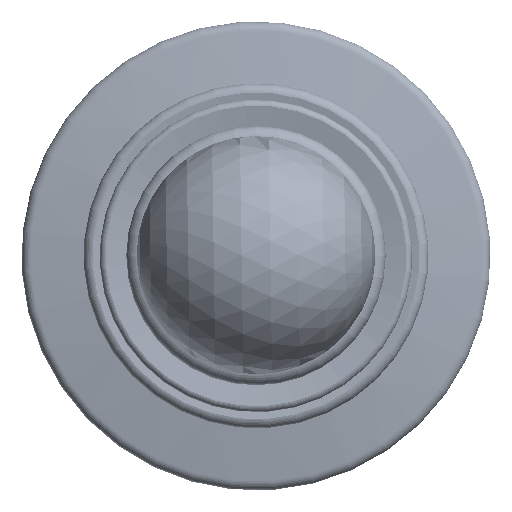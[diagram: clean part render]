
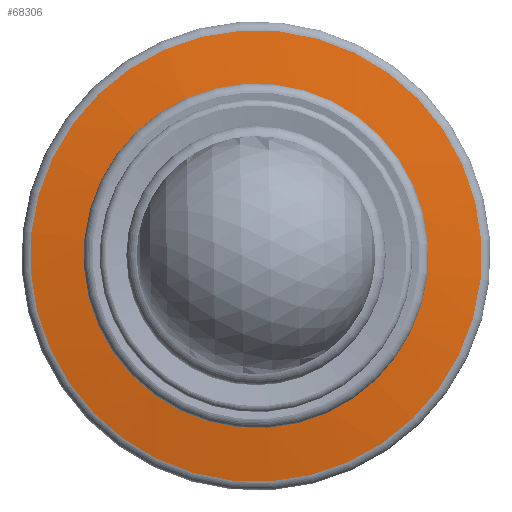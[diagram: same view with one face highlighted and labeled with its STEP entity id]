
A CAD part, top view. The second image highlights one B-rep face of the part: STEP entity #68306.
In plain terms, the highlighted conical face has half-angle 81.479 degrees and reference radius 24.287 mm.
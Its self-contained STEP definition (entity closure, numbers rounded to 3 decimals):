
#356=CONICAL_SURFACE('',#73057,24.287,1.422);
#6136=FACE_OUTER_BOUND('',#10152,.T.);
#10152=EDGE_LOOP('',(#48266,#48267,#48268,#48269,#48270,#48271));
#14097=CIRCLE('',#73055,15.852);
#14098=CIRCLE('',#73056,15.852);
#14099=CIRCLE('',#73058,32.722);
#14100=CIRCLE('',#73059,32.722);
#17647=LINE('',#107626,#22597);
#22597=VECTOR('',#82891,24.287);
#28183=VERTEX_POINT('',#107617);
#28184=VERTEX_POINT('',#107619);
#28185=VERTEX_POINT('',#107623);
#28186=VERTEX_POINT('',#107624);
#35543=EDGE_CURVE('',#28184,#28183,#14097,.T.);
#35544=EDGE_CURVE('',#28183,#28184,#14098,.T.);
#35545=EDGE_CURVE('',#28185,#28186,#14099,.T.);
#35546=EDGE_CURVE('',#28185,#28184,#17647,.T.);
#35547=EDGE_CURVE('',#28186,#28185,#14100,.T.);
#48266=ORIENTED_EDGE('',*,*,#35545,.F.);
#48267=ORIENTED_EDGE('',*,*,#35546,.T.);
#48268=ORIENTED_EDGE('',*,*,#35543,.T.);
#48269=ORIENTED_EDGE('',*,*,#35544,.T.);
#48270=ORIENTED_EDGE('',*,*,#35546,.F.);
#48271=ORIENTED_EDGE('',*,*,#35547,.F.);
#68306=ADVANCED_FACE('',(#6136),#356,.T.);
#73055=AXIS2_PLACEMENT_3D('',#107620,#82883,#82884);
#73056=AXIS2_PLACEMENT_3D('',#107621,#82885,#82886);
#73057=AXIS2_PLACEMENT_3D('',#107622,#82887,#82888);
#73058=AXIS2_PLACEMENT_3D('',#107625,#82889,#82890);
#73059=AXIS2_PLACEMENT_3D('',#107627,#82892,#82893);
#82883=DIRECTION('center_axis',(0.,0.,
-1.));
#82884=DIRECTION('ref_axis',(-0.995,0.104,0.));
#82885=DIRECTION('center_axis',(0.,0.,
-1.));
#82886=DIRECTION('ref_axis',(-0.995,0.104,0.));
#82887=DIRECTION('center_axis',(0.,0.,
-1.));
#82888=DIRECTION('ref_axis',(-0.995,0.104,0.));
#82889=DIRECTION('center_axis',(0.,0.,
-1.));
#82890=DIRECTION('ref_axis',(-0.995,0.104,0.));
#82891=DIRECTION('',(-0.984,0.103,0.148));
#82892=DIRECTION('center_axis',(0.,0.,
-1.));
#82893=DIRECTION('ref_axis',(-0.995,0.104,0.));
#107617=CARTESIAN_POINT('',(1.649,15.766,21.736));
#107619=CARTESIAN_POINT('',(15.766,-1.649,21.736));
#107620=CARTESIAN_POINT('Origin',(0.,0.,
21.736));
#107621=CARTESIAN_POINT('Origin',(0.,0.,
21.736));
#107622=CARTESIAN_POINT('Origin',(0.,0.,
20.472));
#107623=CARTESIAN_POINT('',(32.545,-3.405,19.208));
#107624=CARTESIAN_POINT('',(3.405,32.545,19.208));
#107625=CARTESIAN_POINT('Origin',(0.,0.,
19.208));
#107626=CARTESIAN_POINT('',(24.155,-2.527,20.472));
#107627=CARTESIAN_POINT('Origin',(0.,0.,
19.208));
